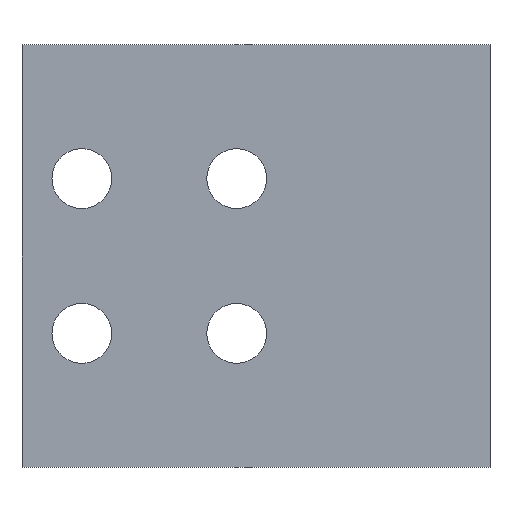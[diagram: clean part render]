
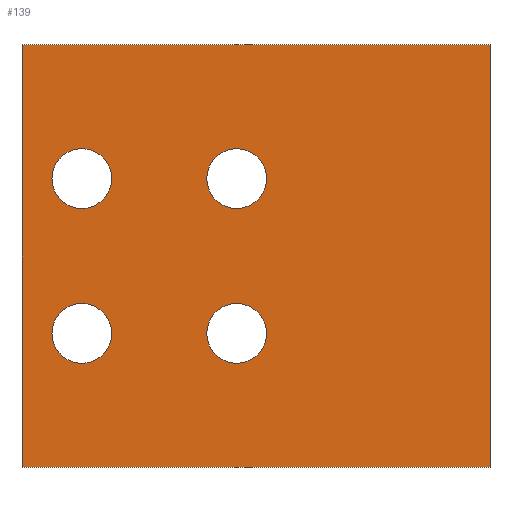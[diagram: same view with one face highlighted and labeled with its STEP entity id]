
A CAD part, front view. The second image highlights one B-rep face of the part: STEP entity #139.
In plain terms, the highlighted planar face has unit normal (0, -1, 0).
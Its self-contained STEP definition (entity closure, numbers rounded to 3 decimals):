
#101 = VERTEX_POINT( '', #267 );
#105 = EDGE_CURVE( '', #101, #177, #271, .T. );
#111 = VERTEX_POINT( '', #278 );
#119 = VERTEX_POINT( '', #286 );
#125 = EDGE_CURVE( '', #129, #153, #292, .T. );
#129 = VERTEX_POINT( '', #297 );
#139 = ADVANCED_FACE( '', ( #308, #309, #310, #311, #312 ), #313, .T. );
#143 = EDGE_CURVE( '', #111, #101, #317, .T. );
#145 = EDGE_CURVE( '', #161, #119, #319, .T. );
#153 = VERTEX_POINT( '', #327 );
#159 = EDGE_CURVE( '', #153, #129, #333, .T. );
#161 = VERTEX_POINT( '', #335 );
#167 = EDGE_CURVE( '', #187, #189, #341, .T. );
#169 = EDGE_CURVE( '', #119, #161, #343, .T. );
#173 = VERTEX_POINT( '', #347 );
#177 = VERTEX_POINT( '', #356 );
#183 = EDGE_CURVE( '', #207, #245, #364, .T. );
#187 = VERTEX_POINT( '', #368 );
#189 = VERTEX_POINT( '', #370 );
#199 = EDGE_CURVE( '', #189, #187, #382, .T. );
#207 = VERTEX_POINT( '', #391 );
#229 = EDGE_CURVE( '', #245, #207, #417, .T. );
#233 = EDGE_CURVE( '', #173, #177, #421, .T. );
#235 = EDGE_CURVE( '', #111, #173, #423, .T. );
#245 = VERTEX_POINT( '', #433 );
#267 = CARTESIAN_POINT( '', ( -33.25, 0., 30. ) );
#271 = LINE( '', #452, #453 );
#278 = CARTESIAN_POINT( '', ( 33.25, 0., 30. ) );
#286 = CARTESIAN_POINT( '', ( -29., 0., -11. ) );
#292 = CIRCLE( '', #485, 4.25 );
#297 = CARTESIAN_POINT( '', ( -20.5, 0., 11. ) );
#308 = FACE_BOUND( '', #503, .T. );
#309 = FACE_BOUND( '', #504, .T. );
#310 = FACE_BOUND( '', #505, .T. );
#311 = FACE_BOUND( '', #506, .T. );
#312 = FACE_OUTER_BOUND( '', #507, .T. );
#313 = PLANE( '', #508 );
#317 = LINE( '', #513, #514 );
#319 = CIRCLE( '', #517, 4.25 );
#327 = CARTESIAN_POINT( '', ( -29., 0., 11. ) );
#333 = CIRCLE( '', #538, 4.25 );
#335 = CARTESIAN_POINT( '', ( -20.5, 0., -11. ) );
#341 = CIRCLE( '', #549, 4.25 );
#343 = CIRCLE( '', #552, 4.25 );
#347 = CARTESIAN_POINT( '', ( 33.25, 0., -30. ) );
#356 = CARTESIAN_POINT( '', ( -33.25, 0., -30. ) );
#364 = CIRCLE( '', #573, 4.25 );
#368 = CARTESIAN_POINT( '', ( -7., 0., -11. ) );
#370 = CARTESIAN_POINT( '', ( 1.5, 0., -11. ) );
#382 = CIRCLE( '', #598, 4.25 );
#391 = CARTESIAN_POINT( '', ( 1.5, 0., 11. ) );
#417 = CIRCLE( '', #645, 4.25 );
#421 = LINE( '', #650, #651 );
#423 = LINE( '', #654, #655 );
#433 = CARTESIAN_POINT( '', ( -7., 0., 11. ) );
#452 = CARTESIAN_POINT( '', ( -33.25, 0., 30. ) );
#453 = VECTOR( '', #671, 1. );
#485 = AXIS2_PLACEMENT_3D( '', #685, #686, #687 );
#503 = EDGE_LOOP( '', ( #711, #712 ) );
#504 = EDGE_LOOP( '', ( #713, #714 ) );
#505 = EDGE_LOOP( '', ( #715, #716 ) );
#506 = EDGE_LOOP( '', ( #717, #718 ) );
#507 = EDGE_LOOP( '', ( #719, #720, #721, #722 ) );
#508 = AXIS2_PLACEMENT_3D( '', #723, #724, #725 );
#513 = CARTESIAN_POINT( '', ( 33.25, 0., 30. ) );
#514 = VECTOR( '', #726, 1. );
#517 = AXIS2_PLACEMENT_3D( '', #727, #728, #729 );
#538 = AXIS2_PLACEMENT_3D( '', #738, #739, #740 );
#549 = AXIS2_PLACEMENT_3D( '', #742, #743, #744 );
#552 = AXIS2_PLACEMENT_3D( '', #745, #746, #747 );
#573 = AXIS2_PLACEMENT_3D( '', #781, #782, #783 );
#598 = AXIS2_PLACEMENT_3D( '', #803, #804, #805 );
#645 = AXIS2_PLACEMENT_3D( '', #859, #860, #861 );
#650 = CARTESIAN_POINT( '', ( 33.25, 0., -30. ) );
#651 = VECTOR( '', #862, 1. );
#654 = CARTESIAN_POINT( '', ( 33.25, 0., 30. ) );
#655 = VECTOR( '', #863, 1. );
#671 = DIRECTION( '', ( 0., 0., -1. ) );
#685 = CARTESIAN_POINT( '', ( -24.75, 0., 11. ) );
#686 = DIRECTION( '', ( 0., 1., 0. ) );
#687 = DIRECTION( '', ( -1., 0., 0. ) );
#711 = ORIENTED_EDGE( '', *, *, #183, .T. );
#712 = ORIENTED_EDGE( '', *, *, #229, .T. );
#713 = ORIENTED_EDGE( '', *, *, #125, .T. );
#714 = ORIENTED_EDGE( '', *, *, #159, .T. );
#715 = ORIENTED_EDGE( '', *, *, #199, .T. );
#716 = ORIENTED_EDGE( '', *, *, #167, .T. );
#717 = ORIENTED_EDGE( '', *, *, #145, .T. );
#718 = ORIENTED_EDGE( '', *, *, #169, .T. );
#719 = ORIENTED_EDGE( '', *, *, #105, .T. );
#720 = ORIENTED_EDGE( '', *, *, #233, .F. );
#721 = ORIENTED_EDGE( '', *, *, #235, .F. );
#722 = ORIENTED_EDGE( '', *, *, #143, .T. );
#723 = CARTESIAN_POINT( '', ( 33.25, 0., 30. ) );
#724 = DIRECTION( '', ( 0., -1., 0. ) );
#725 = DIRECTION( '', ( 0., 0., 1. ) );
#726 = DIRECTION( '', ( -1., 0., 0. ) );
#727 = CARTESIAN_POINT( '', ( -24.75, 0., -11. ) );
#728 = DIRECTION( '', ( 0., 1., 0. ) );
#729 = DIRECTION( '', ( -1., 0., 0. ) );
#738 = CARTESIAN_POINT( '', ( -24.75, 0., 11. ) );
#739 = DIRECTION( '', ( 0., 1., 0. ) );
#740 = DIRECTION( '', ( -1., 0., 0. ) );
#742 = CARTESIAN_POINT( '', ( -2.75, 0., -11. ) );
#743 = DIRECTION( '', ( 0., 1., 0. ) );
#744 = DIRECTION( '', ( -1., 0., 0. ) );
#745 = CARTESIAN_POINT( '', ( -24.75, 0., -11. ) );
#746 = DIRECTION( '', ( 0., 1., 0. ) );
#747 = DIRECTION( '', ( -1., 0., 0. ) );
#781 = CARTESIAN_POINT( '', ( -2.75, 0., 11. ) );
#782 = DIRECTION( '', ( 0., 1., 0. ) );
#783 = DIRECTION( '', ( -1., 0., 0. ) );
#803 = CARTESIAN_POINT( '', ( -2.75, 0., -11. ) );
#804 = DIRECTION( '', ( 0., 1., 0. ) );
#805 = DIRECTION( '', ( -1., 0., 0. ) );
#859 = CARTESIAN_POINT( '', ( -2.75, 0., 11. ) );
#860 = DIRECTION( '', ( 0., 1., 0. ) );
#861 = DIRECTION( '', ( -1., 0., 0. ) );
#862 = DIRECTION( '', ( -1., 0., 0. ) );
#863 = DIRECTION( '', ( 0., 0., -1. ) );
